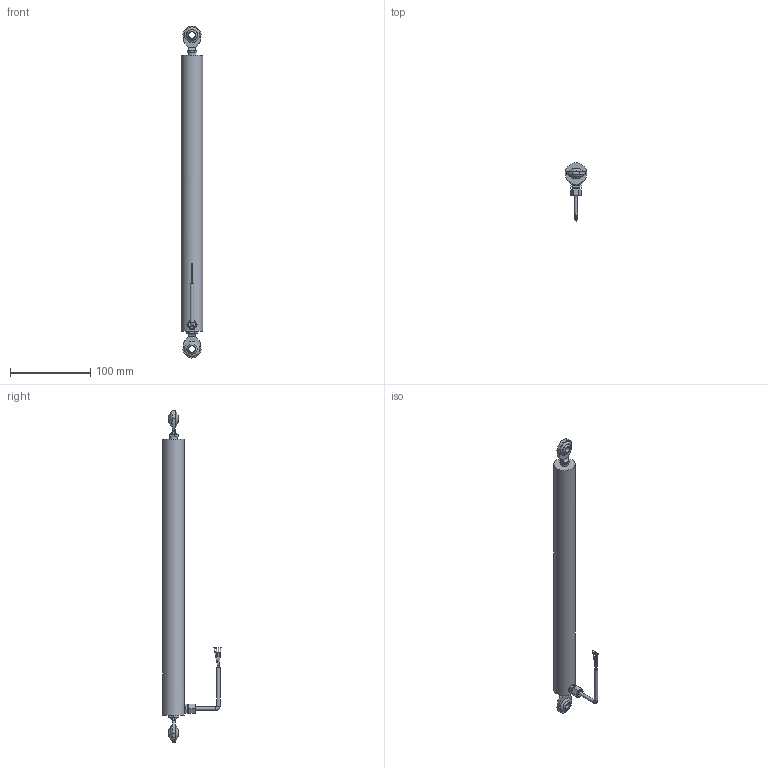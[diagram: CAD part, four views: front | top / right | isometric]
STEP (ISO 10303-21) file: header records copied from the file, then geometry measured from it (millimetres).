
FILE_DESCRIPTION(/* description */ (''),/* implementation_level */ '2;1');
FILE_NAME(/* name */ 'ILPS-27L-250-R-00-50-A (wrapped).stp',/* time_stamp */ '2024-08-15T15:24:54-04:00',/* author */ ('Justin'),/* organization */ (''),/* preprocessor_version */ 'ST-DEVELOPER v20',/* originating_system */ 'Autodesk Inventor 2025',/* authorisation */ '');
FILE_SCHEMA (('AUTOMOTIVE_DESIGN { 1 0 10303 214 3 1 1 }'));
Length unit declared in the file: inch
Products named in the file (4): ILPS-27-100-R-00-50-A (wrapped); ILPS-27L-250-R-00-50-A_Simplify_1; ILPS-27L-250-R-00-50-A_Simplify_2; LZ-33 Cable
Assembly tree (3 placements, depth 2):
  ILPS-27-100-R-00-50-A (wrapped)
    ILPS-27L-250-R-00-50-A_Simplify_1
    ILPS-27L-250-R-00-50-A_Simplify_2
    LZ-33 Cable
Bounding box: 26.67 x 72.34 x 412.72 mm (x, y, z)
Volume: 202590 mm3; surface area: 51643.1 mm2
Topology: 3 solids, 3 shells, 148 faces, 338 edges, 222 vertices
Faces by surface type: plane 74, cylinder 53, bspline 8, torus 6, sphere 4, cone 3
Full cylindrical faces by diameter (mm): 0.635 x4, 0.762 x4, 4.369 x3, 4.572 x2, 8 x2, 8.712 x2, 9.398 x2, 10.999 x1, 26.67 x1
Entity records: 4999 total; most frequent: CARTESIAN_POINT 1192, DIRECTION 740, ORIENTED_EDGE 674, EDGE_CURVE 337, AXIS2_PLACEMENT_3D 298, VERTEX_POINT 222, EDGE_LOOP 179, STYLED_ITEM 152
